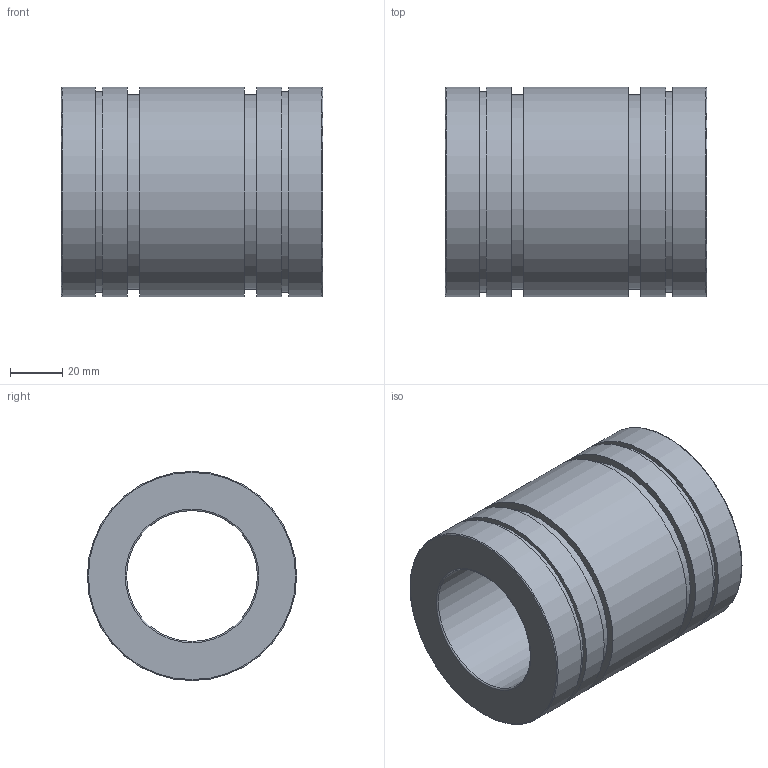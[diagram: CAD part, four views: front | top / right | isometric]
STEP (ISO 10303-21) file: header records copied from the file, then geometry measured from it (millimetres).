
FILE_DESCRIPTION(('STEP AP203'),'1');
FILE_NAME('//192.168.1.1/share/s-4 技術開発/s-4-4_CAD/s-4-4-3_見直し済み/PBC LINEAR修正済み/3D途中/FJ/FJ50.step','2022-03-24T06:51:58',(' '),(' '),'Spatial InterOp 3D',' ',' ');
FILE_SCHEMA(('CONFIG_CONTROL_DESIGN'));
Length unit declared in the file: millimetre
Products named in the file (1): 1
Bounding box: 100 x 80 x 80 mm (x, y, z)
Volume: 297264.6 mm3; surface area: 51110.6 mm2
Topology: 1 solids, 1 shells, 24 faces, 38 edges, 24 vertices
Faces by surface type: cylinder 10, plane 10, torus 4
Full cylindrical faces by diameter (mm): 50 x1, 74.193 x2, 76.5 x2, 80 x5
Entity records: 532 total; most frequent: DIRECTION 98, CARTESIAN_POINT 73, AXIS2_PLACEMENT_3D 49, EDGE_LOOP 48, ORIENTED_EDGE 48, FACE_OUTER_BOUND 38, ADVANCED_FACE 24, EDGE_CURVE 24
